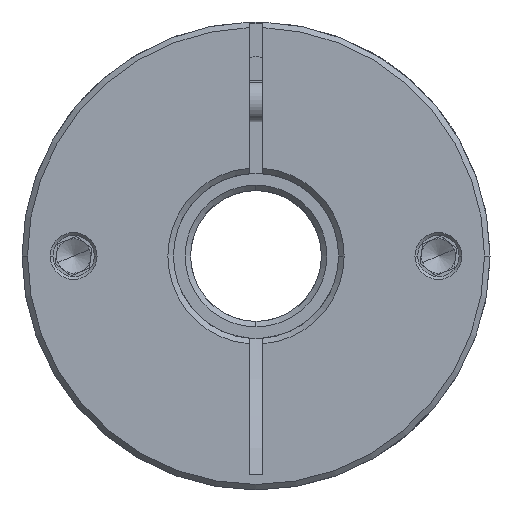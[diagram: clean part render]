
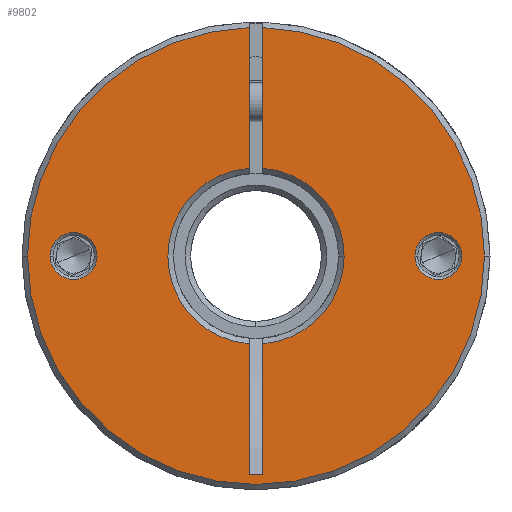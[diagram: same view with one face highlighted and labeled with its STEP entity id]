
A CAD part, front view. The second image highlights one B-rep face of the part: STEP entity #9802.
In plain terms, the highlighted planar face has unit normal (0, -1, 0).
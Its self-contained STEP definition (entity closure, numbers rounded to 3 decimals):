
#43 = DIRECTION ( 'NONE',  ( 1., 0., 0. ) ) ;
#65 = DIRECTION ( 'NONE',  ( 0., -1., 0. ) ) ;
#133 = FACE_BOUND ( 'NONE', #8618, .T. ) ;
#193 = CARTESIAN_POINT ( 'NONE',  ( -1.735, -47.045, 55.239 ) ) ;
#249 = CIRCLE ( 'NONE', #9104, 3.4 ) ;
#416 = CARTESIAN_POINT ( 'NONE',  ( -1.735, -47.045, 80.761 ) ) ;
#432 = DIRECTION ( 'NONE',  ( 0., 1., 0. ) ) ;
#564 = EDGE_CURVE ( 'NONE', #9169, #5313, #12191, .T. ) ;
#764 = AXIS2_PLACEMENT_3D ( 'NONE', #6637, #8647, #1691 ) ;
#910 = DIRECTION ( 'NONE',  ( 1., 0., 0. ) ) ;
#1388 = ORIENTED_EDGE ( 'NONE', *, *, #564, .T. ) ;
#1549 = DIRECTION ( 'NONE',  ( 1., 0., 0. ) ) ;
#1691 = DIRECTION ( 'NONE',  ( 1., 0., 0. ) ) ;
#1694 = EDGE_LOOP ( 'NONE', ( #6243, #5159, #9587, #11794, #1388, #7130, #8320, #12919, #2779, #6177, #12708 ) ) ;
#1707 = VERTEX_POINT ( 'NONE', #8469 ) ;
#1874 = ORIENTED_EDGE ( 'NONE', *, *, #7157, .T. ) ;
#2044 = CARTESIAN_POINT ( 'NONE',  ( -1.735, -47.045, 68. ) ) ;
#2054 = EDGE_CURVE ( 'NONE', #7827, #6853, #5221, .T. ) ;
#2119 = DIRECTION ( 'NONE',  ( 1., 0., 0. ) ) ;
#2408 = EDGE_CURVE ( 'NONE', #9884, #6853, #11253, .T. ) ;
#2444 = AXIS2_PLACEMENT_3D ( 'NONE', #12471, #6226, #43 ) ;
#2470 = VECTOR ( 'NONE', #13082, 1000. ) ;
#2522 = CARTESIAN_POINT ( 'NONE',  ( -1.735, -47.045, 68. ) ) ;
#2535 = CIRCLE ( 'NONE', #7724, 33.2 ) ;
#2549 = CARTESIAN_POINT ( 'NONE',  ( -29.235, -47.045, 68. ) ) ;
#2779 = ORIENTED_EDGE ( 'NONE', *, *, #3368, .T. ) ;
#3034 = CARTESIAN_POINT ( 'NONE',  ( -2.735, -47.045, 68. ) ) ;
#3038 = CARTESIAN_POINT ( 'NONE',  ( -2.735, -47.045, 68. ) ) ;
#3089 = VERTEX_POINT ( 'NONE', #13152 ) ;
#3197 = FACE_OUTER_BOUND ( 'NONE', #1694, .T. ) ;
#3368 = EDGE_CURVE ( 'NONE', #4446, #10837, #7357, .T. ) ;
#3391 = DIRECTION ( 'NONE',  ( 0., 1., 0. ) ) ;
#3559 = EDGE_CURVE ( 'NONE', #7827, #10837, #4408, .T. ) ;
#3564 = CARTESIAN_POINT ( 'NONE',  ( 20.365, -47.045, 68. ) ) ;
#3719 = CARTESIAN_POINT ( 'NONE',  ( -3.735, -47.045, 68. ) ) ;
#3733 = AXIS2_PLACEMENT_3D ( 'NONE', #6670, #9764, #6763 ) ;
#4022 = EDGE_CURVE ( 'NONE', #9884, #8516, #9168, .T. ) ;
#4094 = VERTEX_POINT ( 'NONE', #6081 ) ;
#4152 = PLANE ( 'NONE',  #8435 ) ;
#4157 = CARTESIAN_POINT ( 'NONE',  ( -3.735, -47.045, 36.279 ) ) ;
#4161 = DIRECTION ( 'NONE',  ( 0., 0., -1. ) ) ;
#4199 = EDGE_CURVE ( 'NONE', #3089, #8164, #249, .T. ) ;
#4203 = DIRECTION ( 'NONE',  ( 1., 0., 0. ) ) ;
#4256 = CARTESIAN_POINT ( 'NONE',  ( 23.765, -47.045, 68. ) ) ;
#4408 = LINE ( 'NONE', #3719, #6715 ) ;
#4446 = VERTEX_POINT ( 'NONE', #9925 ) ;
#4624 = ORIENTED_EDGE ( 'NONE', *, *, #11971, .T. ) ;
#4628 = CARTESIAN_POINT ( 'NONE',  ( -1.735, -47.045, 101.185 ) ) ;
#4861 = CARTESIAN_POINT ( 'NONE',  ( -32.635, -47.045, 68. ) ) ;
#5055 = DIRECTION ( 'NONE',  ( 1., 0., 0. ) ) ;
#5127 = EDGE_CURVE ( 'NONE', #9908, #4446, #8050, .T. ) ;
#5141 = AXIS2_PLACEMENT_3D ( 'NONE', #2549, #432, #7668 ) ;
#5159 = ORIENTED_EDGE ( 'NONE', *, *, #4022, .T. ) ;
#5193 = CARTESIAN_POINT ( 'NONE',  ( -2.735, -47.045, 68. ) ) ;
#5203 = EDGE_CURVE ( 'NONE', #4094, #9908, #8204, .T. ) ;
#5221 = CIRCLE ( 'NONE', #7265, 12.8 ) ;
#5294 = DIRECTION ( 'NONE',  ( 1., 0., 0. ) ) ;
#5313 = VERTEX_POINT ( 'NONE', #416 ) ;
#5433 = CIRCLE ( 'NONE', #3733, 33.2 ) ;
#5696 = VECTOR ( 'NONE', #8452, 1000. ) ;
#6057 = DIRECTION ( 'NONE',  ( 0., 1., 0. ) ) ;
#6081 = CARTESIAN_POINT ( 'NONE',  ( 10.065, -47.045, 68. ) ) ;
#6177 = ORIENTED_EDGE ( 'NONE', *, *, #3559, .F. ) ;
#6208 = CARTESIAN_POINT ( 'NONE',  ( -29.235, -47.045, 68. ) ) ;
#6226 = DIRECTION ( 'NONE',  ( 0., 1., 0. ) ) ;
#6243 = ORIENTED_EDGE ( 'NONE', *, *, #2408, .F. ) ;
#6258 = VERTEX_POINT ( 'NONE', #7664 ) ;
#6332 = CIRCLE ( 'NONE', #13201, 3.4 ) ;
#6366 = CIRCLE ( 'NONE', #6783, 3.4 ) ;
#6561 = CIRCLE ( 'NONE', #2444, 12.8 ) ;
#6637 = CARTESIAN_POINT ( 'NONE',  ( -2.735, -47.045, 68. ) ) ;
#6642 = VECTOR ( 'NONE', #9736, 1000. ) ;
#6670 = CARTESIAN_POINT ( 'NONE',  ( -2.735, -47.045, 68. ) ) ;
#6715 = VECTOR ( 'NONE', #6929, 1000. ) ;
#6763 = DIRECTION ( 'NONE',  ( 1., 0., 0. ) ) ;
#6783 = AXIS2_PLACEMENT_3D ( 'NONE', #6208, #7209, #11416 ) ;
#6853 = VERTEX_POINT ( 'NONE', #7096 ) ;
#6886 = VERTEX_POINT ( 'NONE', #4861 ) ;
#6921 = FACE_BOUND ( 'NONE', #13224, .T. ) ;
#6929 = DIRECTION ( 'NONE',  ( 0., 0., -1. ) ) ;
#7096 = CARTESIAN_POINT ( 'NONE',  ( -3.735, -47.045, 80.761 ) ) ;
#7130 = ORIENTED_EDGE ( 'NONE', *, *, #11389, .T. ) ;
#7157 = EDGE_CURVE ( 'NONE', #8164, #3089, #6332, .T. ) ;
#7209 = DIRECTION ( 'NONE',  ( 0., 1., 0. ) ) ;
#7265 = AXIS2_PLACEMENT_3D ( 'NONE', #3034, #6057, #910 ) ;
#7346 = CARTESIAN_POINT ( 'NONE',  ( -2.735, -47.045, 68. ) ) ;
#7357 = LINE ( 'NONE', #4157, #5696 ) ;
#7664 = CARTESIAN_POINT ( 'NONE',  ( -25.835, -47.045, 68. ) ) ;
#7668 = DIRECTION ( 'NONE',  ( 1., 0., 0. ) ) ;
#7724 = AXIS2_PLACEMENT_3D ( 'NONE', #5193, #65, #2119 ) ;
#7827 = VERTEX_POINT ( 'NONE', #12974 ) ;
#8050 = LINE ( 'NONE', #2044, #10656 ) ;
#8164 = VERTEX_POINT ( 'NONE', #3564 ) ;
#8204 = CIRCLE ( 'NONE', #12904, 12.8 ) ;
#8320 = ORIENTED_EDGE ( 'NONE', *, *, #5203, .T. ) ;
#8435 = AXIS2_PLACEMENT_3D ( 'NONE', #3038, #11323, #5055 ) ;
#8452 = DIRECTION ( 'NONE',  ( -1., 0., 0. ) ) ;
#8469 = CARTESIAN_POINT ( 'NONE',  ( 30.465, -47.045, 68. ) ) ;
#8516 = VERTEX_POINT ( 'NONE', #10723 ) ;
#8618 = EDGE_LOOP ( 'NONE', ( #9910, #1874 ) ) ;
#8647 = DIRECTION ( 'NONE',  ( 0., -1., 0. ) ) ;
#9104 = AXIS2_PLACEMENT_3D ( 'NONE', #4256, #11551, #4203 ) ;
#9168 = CIRCLE ( 'NONE', #764, 33.2 ) ;
#9169 = VERTEX_POINT ( 'NONE', #4628 ) ;
#9449 = ORIENTED_EDGE ( 'NONE', *, *, #12478, .T. ) ;
#9470 = CIRCLE ( 'NONE', #5141, 3.4 ) ;
#9587 = ORIENTED_EDGE ( 'NONE', *, *, #9879, .T. ) ;
#9603 = CARTESIAN_POINT ( 'NONE',  ( -3.735, -47.045, 101.185 ) ) ;
#9727 = DIRECTION ( 'NONE',  ( 0., 1., 0. ) ) ;
#9736 = DIRECTION ( 'NONE',  ( 0., 0., -1. ) ) ;
#9764 = DIRECTION ( 'NONE',  ( 0., -1., 0. ) ) ;
#9802 = ADVANCED_FACE ( 'NONE', ( #133, #6921, #3197 ), #4152, .T. ) ;
#9879 = EDGE_CURVE ( 'NONE', #8516, #1707, #2535, .T. ) ;
#9884 = VERTEX_POINT ( 'NONE', #9603 ) ;
#9908 = VERTEX_POINT ( 'NONE', #193 ) ;
#9910 = ORIENTED_EDGE ( 'NONE', *, *, #4199, .T. ) ;
#9925 = CARTESIAN_POINT ( 'NONE',  ( -1.735, -47.045, 36.279 ) ) ;
#10392 = EDGE_CURVE ( 'NONE', #1707, #9169, #5433, .T. ) ;
#10656 = VECTOR ( 'NONE', #4161, 1000. ) ;
#10723 = CARTESIAN_POINT ( 'NONE',  ( -35.935, -47.045, 68. ) ) ;
#10837 = VERTEX_POINT ( 'NONE', #11552 ) ;
#10962 = CARTESIAN_POINT ( 'NONE',  ( -3.735, -47.045, 68. ) ) ;
#11253 = LINE ( 'NONE', #10962, #2470 ) ;
#11323 = DIRECTION ( 'NONE',  ( 0., -1., 0. ) ) ;
#11389 = EDGE_CURVE ( 'NONE', #5313, #4094, #6561, .T. ) ;
#11416 = DIRECTION ( 'NONE',  ( 1., 0., 0. ) ) ;
#11551 = DIRECTION ( 'NONE',  ( 0., 1., 0. ) ) ;
#11552 = CARTESIAN_POINT ( 'NONE',  ( -3.735, -47.045, 36.279 ) ) ;
#11794 = ORIENTED_EDGE ( 'NONE', *, *, #10392, .T. ) ;
#11971 = EDGE_CURVE ( 'NONE', #6258, #6886, #9470, .T. ) ;
#12191 = LINE ( 'NONE', #2522, #6642 ) ;
#12471 = CARTESIAN_POINT ( 'NONE',  ( -2.735, -47.045, 68. ) ) ;
#12478 = EDGE_CURVE ( 'NONE', #6886, #6258, #6366, .T. ) ;
#12708 = ORIENTED_EDGE ( 'NONE', *, *, #2054, .T. ) ;
#12892 = CARTESIAN_POINT ( 'NONE',  ( 23.765, -47.045, 68. ) ) ;
#12904 = AXIS2_PLACEMENT_3D ( 'NONE', #7346, #3391, #5294 ) ;
#12919 = ORIENTED_EDGE ( 'NONE', *, *, #5127, .T. ) ;
#12974 = CARTESIAN_POINT ( 'NONE',  ( -3.735, -47.045, 55.239 ) ) ;
#13082 = DIRECTION ( 'NONE',  ( 0., 0., -1. ) ) ;
#13152 = CARTESIAN_POINT ( 'NONE',  ( 27.165, -47.045, 68. ) ) ;
#13201 = AXIS2_PLACEMENT_3D ( 'NONE', #12892, #9727, #1549 ) ;
#13224 = EDGE_LOOP ( 'NONE', ( #4624, #9449 ) ) ;
